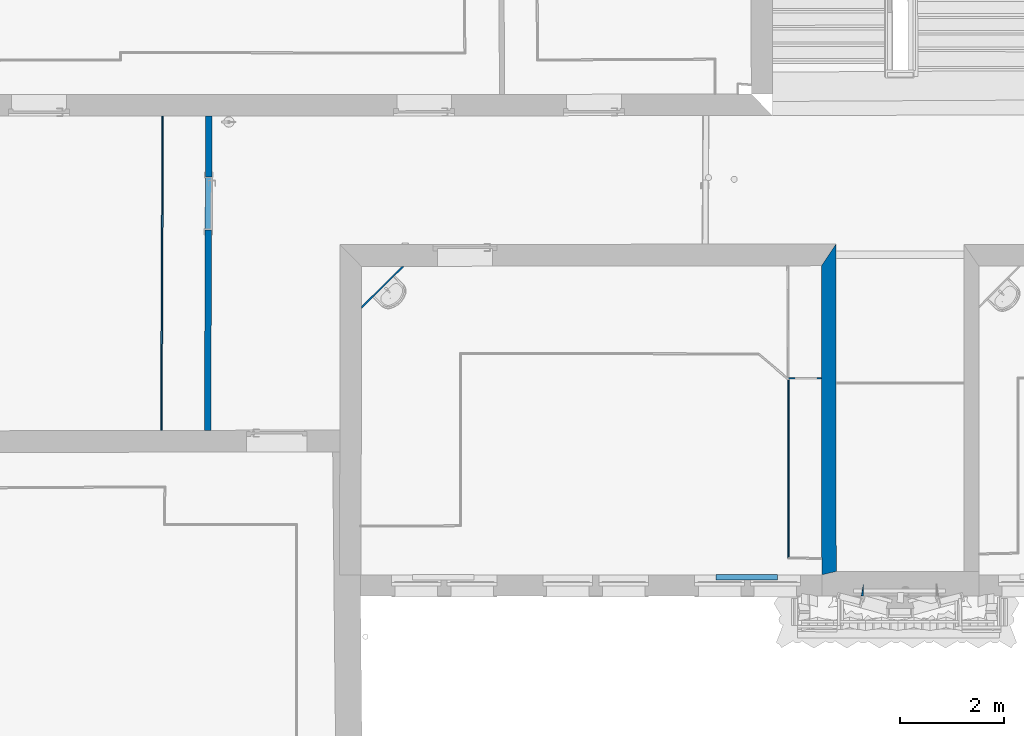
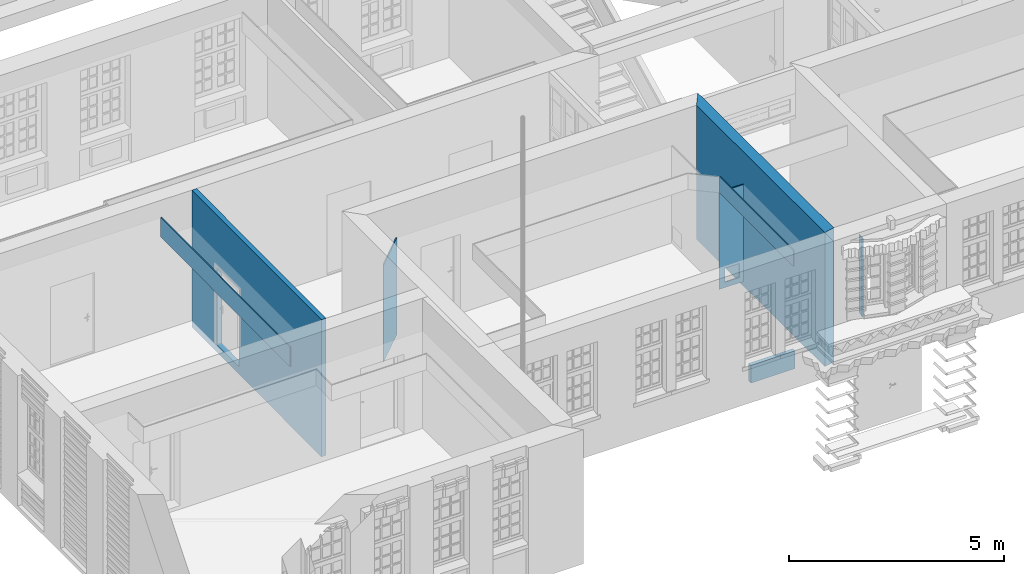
# One storey, part 20 of 158: 8 walls, 2 openings.
"""IFC2X3 building model written with IfcOpenShell, lengths in metres."""

from ifc_helpers import new_model, entity, si_unit, converted_unit, derived_unit, money_unit, direction, frame, origin_with_axes, origin_2d_with_axis, place, context, subcontext, project, spatial, polyline, rectangle, outline, extrude, material, layer, layer_set, layer_usage, type_object, element, save


model = new_model("IFC2X3")

# Units and contexts
model_context = context("Model", 3, precision=1e-05, world=origin_with_axes(), true_north=direction((0.0, 1.0)))
body_context = subcontext(model_context, "Body", "Model", "MODEL_VIEW")
ifc_project = project(units=[si_unit("LENGTHUNIT", "METRE"), si_unit("AREAUNIT", "SQUARE_METRE"), si_unit("VOLUMEUNIT", "CUBIC_METRE"), converted_unit("PLANEANGLEUNIT", "DEGREE", entity("IfcPlaneAngleMeasure", 0.0174532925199), si_unit("PLANEANGLEUNIT", "RADIAN"), dimensions=[0, 0, 0, 0, 0, 0, 0]), money_unit("EUR"), converted_unit("TIMEUNIT", "Year", entity("IfcTimeMeasure", 31556926.0), si_unit("TIMEUNIT", "SECOND"), dimensions=[0, 0, 1, 0, 0, 0, 0]), si_unit("MASSUNIT", "GRAM", prefix="KILO"), si_unit("THERMODYNAMICTEMPERATUREUNIT", "DEGREE_CELSIUS"), si_unit("LUMINOUSINTENSITYUNIT", "LUMEN"), si_unit("ENERGYUNIT", "JOULE", prefix="MEGA"), derived_unit("THERMALCONDUCTANCEUNIT", [(si_unit("POWERUNIT", "WATT"), 1), (si_unit("LENGTHUNIT", "METRE"), -1), (si_unit("THERMODYNAMICTEMPERATUREUNIT", "KELVIN"), -1)]), derived_unit("SPECIFICHEATCAPACITYUNIT", [(si_unit("ENERGYUNIT", "JOULE"), 1), (si_unit("MASSUNIT", "GRAM", prefix="KILO"), -1), (si_unit("THERMODYNAMICTEMPERATUREUNIT", "KELVIN"), -1)]), derived_unit("MASSDENSITYUNIT", [(si_unit("MASSUNIT", "GRAM", prefix="KILO"), 1), (si_unit("VOLUMEUNIT", "CUBIC_METRE"), -1)])], contexts=[model_context])

# Site, building, storey
site_placement = place(None, origin_with_axes())
site = spatial("IfcSite", under=ifc_project, at=site_placement, Name="Gelände", CompositionType="ELEMENT")
building_placement = place(site_placement, origin_with_axes())
building = spatial("IfcBuilding", under=site, at=building_placement, Name="Gebäude", CompositionType="ELEMENT")
storey_placement = place(building_placement, origin_with_axes())
storey = spatial("IfcBuildingStorey", under=building, at=storey_placement, Name="ERDGESCHOSS", CompositionType="ELEMENT", Elevation=0.0)

# Wall
ifc_material_1 = material(Name="05_ALLGEMEIN - TRAGENDE BAUTEILE")
ifc_layer_1 = layer(ifc_material_1, 0.28, ventilated="UNKNOWN")
ifc_layer_set_1 = layer_set([ifc_layer_1], Name="05_ALLGEMEIN - TRAGENDE BAUTEILE 0.28")
ifc_layer_usage_1 = layer_usage(ifc_layer_set_1, "AXIS2", "POSITIVE", -0.28)
wall_type_1 = type_object("IfcWallType", Name="05_ALLGEMEIN - TRAGENDE BAUTEILE 280", PredefinedType="ELEMENTEDWALL")
wall_1_placement = place(storey_placement, frame((-8.89051999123, 9.99464272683, -0.21), z_axis=(0.0, 0.0, 1.0), x_axis=(-0.000802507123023, 0.999999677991, 0.0)))
element("IfcWallStandardCase", 1, at=wall_1_placement, inside=storey, type_object=wall_type_1, material=ifc_layer_usage_1, Name="Wand-037", ObjectType="ELEMENTEDWALL", context=body_context, shape_type="SweptSolid", body=[
    extrude(outline(polyline([(0.469796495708, -0.28), (6.79001207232, -0.28), (6.36982324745, 0.0), (0.405000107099, 0.0), (0.469796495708, -0.28)])), origin_with_axes(), (0.0, 0.0, 1.0), 3.81),
])

# Wall, opening
ifc_material_2 = material(Name="43_Gipskarton")
ifc_layer_2 = layer(ifc_material_2, 0.03, ventilated="UNKNOWN")
ifc_layer_set_2 = layer_set([ifc_layer_2], Name="43_Gipskarton 0.03")
ifc_layer_usage_2 = layer_usage(ifc_layer_set_2, "AXIS2", "NEGATIVE", 0.03)
wall_type_2 = type_object("IfcWallType", Name="43_Gipskarton 30", PredefinedType="ELEMENTEDWALL")
wall_2_placement = place(storey_placement, frame((-9.55482026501, 14.1785042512, -0.08), z_axis=(0.0, 0.0, 1.0), x_axis=(0.999988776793, -0.00473775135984, 0.0)))
wall_2 = element("IfcWallStandardCase", 2, at=wall_2_placement, inside=storey, type_object=wall_type_2, material=ifc_layer_usage_2, Name="Wand-034", ObjectType="ELEMENTEDWALL", context=body_context, shape_type="SweptSolid", body=[
    extrude(outline(polyline([(0.0, 0.0), (0.660952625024, 0.0), (0.660786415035, 0.03), (0.0297601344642, 0.03), (0.0, 0.0)])), origin_with_axes(), (0.0, 0.0, 1.0), 2.755),
])
opening_1_placement = place(wall_2_placement, frame((0.358039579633, 0.0, 0.152180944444), z_axis=(0.0, 0.0, 1.0), x_axis=(1.0, 0.0, 0.0)))
element("IfcOpeningElement", 3, at=opening_1_placement, cuts=wall_2, Name="Tür-022", context=body_context, shape_type="SweptSolid", body=[
    extrude(rectangle(XDim=0.40005727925, YDim=0.399785, at=origin_2d_with_axis()), frame((0.0, 0.03, 0.1998925), z_axis=(0.0, 1.0, 0.0), x_axis=(1.0, 0.0, 0.0)), (0.0, 0.0, -1.0), 0.09),
])

# Walls
ifc_layer_usage_3 = layer_usage(ifc_layer_set_2, "AXIS2", "NEGATIVE", 0.03)
wall_3_placement = place(storey_placement, frame((-17.7754963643, 15.5355187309, -0.08), z_axis=(0.0, 0.0, 1.0), x_axis=(0.711583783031, 0.702601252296, 0.0)))
element("IfcWallStandardCase", 4, at=wall_3_placement, inside=storey, type_object=wall_type_2, material=ifc_layer_usage_3, Name="Wand-035", ObjectType="ELEMENTEDWALL", context=body_context, shape_type="SweptSolid", body=[
    extrude(outline(polyline([(0.0, 0.0), (1.16290077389, 0.0), (1.13242736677, 0.03), (0.0296633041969, 0.03), (0.0, 0.0)])), origin_with_axes(), (0.0, 0.0, 1.0), 2.755),
])
ifc_layer_usage_4 = layer_usage(ifc_layer_set_2, "AXIS2", "NEGATIVE", 0.03)
wall_4_placement = place(storey_placement, frame((-21.6238709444, 19.2538890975, 2.565), z_axis=(0.0, 0.0, 1.0), x_axis=(-0.00431201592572, -0.999990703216, 0.0)))
element("IfcWallStandardCase", 5, at=wall_4_placement, inside=storey, type_object=wall_type_2, material=ifc_layer_usage_4, Name="Wand-039", ObjectType="ELEMENTEDWALL", context=body_context, shape_type="SweptSolid", body=[
    extrude(outline(polyline([(0.0, 0.0), (6.06739642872, 0.0), (6.06720077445, 0.03), (-0.00014787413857, 0.03), (0.0, 0.0)])), origin_with_axes(), (0.0, 0.0, 1.0), 0.555),
])
ifc_layer_usage_5 = layer_usage(ifc_layer_set_2, "AXIS2", "NEGATIVE", 0.03)
wall_5_placement = place(storey_placement, frame((-9.54440284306, 14.1619718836, 2.675), z_axis=(0.0, 0.0, 1.0), x_axis=(-0.0019562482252, -0.999998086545, 0.0)))
element("IfcWallStandardCase", 6, at=wall_5_placement, inside=storey, type_object=wall_type_2, material=ifc_layer_usage_5, Name="Wand-044", ObjectType="ELEMENTEDWALL", context=body_context, shape_type="SweptSolid", body=[
    extrude(outline(polyline([(0.0, 0.0), (3.44965220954, 0.0), (3.42018100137, 0.03), (-0.0139443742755, 0.03), (0.0, 0.0)])), origin_with_axes(), (0.0, 0.0, 1.0), 0.455),
])
ifc_material_3 = material(Name="01_ALLGEMEIN - BAUTEIL")
ifc_layer_3 = layer(ifc_material_3, 0.105, ventilated="UNKNOWN")
ifc_layer_set_3 = layer_set([ifc_layer_3], Name="01_ALLGEMEIN - BAUTEIL 0.105")
ifc_layer_usage_6 = layer_usage(ifc_layer_set_3, "AXIS2", "NEGATIVE", 0.0)
wall_type_3 = type_object("IfcWallType", Name="01_ALLGEMEIN - BAUTEIL 105", PredefinedType="ELEMENTEDWALL")
wall_6_placement = place(storey_placement, frame((-10.9324424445, 10.4050404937, 0.0935706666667), z_axis=(0.0, 0.0, 1.0), x_axis=(0.999997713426, 0.00213849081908, 0.0)))
element("IfcWallStandardCase", 7, at=wall_6_placement, inside=storey, type_object=wall_type_3, material=ifc_layer_usage_6, Name="Wand-037", ObjectType="ELEMENTEDWALL", context=body_context, shape_type="SweptSolid", body=[
    extrude(outline(polyline([(0.0, -0.105), (1.18745387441, -0.105), (1.18745387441, 0.0), (0.0, 0.0), (0.0, -0.105)])), origin_with_axes(), (0.0, 0.0, 1.0), 0.501014),
])
ifc_layer_4 = layer(ifc_material_1, 0.06, ventilated="UNKNOWN")
ifc_layer_set_4 = layer_set([ifc_layer_4], Name="05_ALLGEMEIN - TRAGENDE BAUTEILE 0.06")
ifc_layer_usage_7 = layer_usage(ifc_layer_set_4, "AXIS2", "NEGATIVE", 0.0)
wall_type_4 = type_object("IfcWallType", Name="05_ALLGEMEIN - TRAGENDE BAUTEILE 60", PredefinedType="ELEMENTEDWALL")
wall_7_placement = place(storey_placement, frame((-8.14682314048, 9.88904413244, 1.18241446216), z_axis=(0.0, 0.0, 1.0), x_axis=(-7.52624069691e-05, 0.999999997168, 0.0)))
element("IfcWallStandardCase", 8, at=wall_7_placement, inside=storey, type_object=wall_type_4, material=ifc_layer_usage_7, Name="Wand-032", ObjectType="ELEMENTEDWALL", context=body_context, shape_type="SweptSolid", body=[
    extrude(outline(polyline([(0.105654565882, -0.06), (0.31542085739, -0.06), (0.105654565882, -0.020097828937), (0.105654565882, -0.06)])), origin_with_axes(), (0.0, 0.0, 1.0), 2.22476603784),
])

# Wall, opening
ifc_layer_5 = layer(ifc_material_1, 0.125, ventilated="UNKNOWN")
ifc_layer_set_5 = layer_set([ifc_layer_5], Name="05_ALLGEMEIN - TRAGENDE BAUTEILE 0.125")
ifc_layer_usage_8 = layer_usage(ifc_layer_set_5, "AXIS2", "NEGATIVE", 0.125)
wall_type_5 = type_object("IfcWallType", Name="05_ALLGEMEIN - TRAGENDE BAUTEILE 125", PredefinedType="ELEMENTEDWALL")
wall_8_placement = place(storey_placement, frame((-20.6802197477, 13.188692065, -0.295), z_axis=(0.0, 0.0, 1.0), x_axis=(0.00403223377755, 0.999991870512, 0.0)))
wall_8 = element("IfcWallStandardCase", 9, at=wall_8_placement, inside=storey, type_object=wall_type_5, material=ifc_layer_usage_8, Name="Wand-039", ObjectType="ELEMENTEDWALL", context=body_context, shape_type="SweptSolid", body=[
    extrude(outline(polyline([(0.0, 0.0), (6.06584373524, 0.0), (6.06526256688, 0.125), (-0.000780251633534, 0.125), (0.0, 0.0)])), origin_with_axes(), (0.0, 0.0, 1.0), 3.895),
])
opening_2_placement = place(wall_8_placement, frame((4.37872581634, 0.0, 0.217311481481), z_axis=(0.0, 0.0, 1.0), x_axis=(1.0, 0.0, 0.0)))
element("IfcOpeningElement", 10, at=opening_2_placement, cuts=wall_8, Name="Tür-022", context=body_context, shape_type="SweptSolid", body=[
    extrude(rectangle(XDim=1.02646512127, YDim=2.188924, at=origin_2d_with_axis()), frame((0.0, 0.125, 1.094462), z_axis=(0.0, -1.0, 0.0), x_axis=(-1.0, 0.0, 0.0)), (0.0, 0.0, 1.0), 0.375),
])

save(model, "model.ifc")
